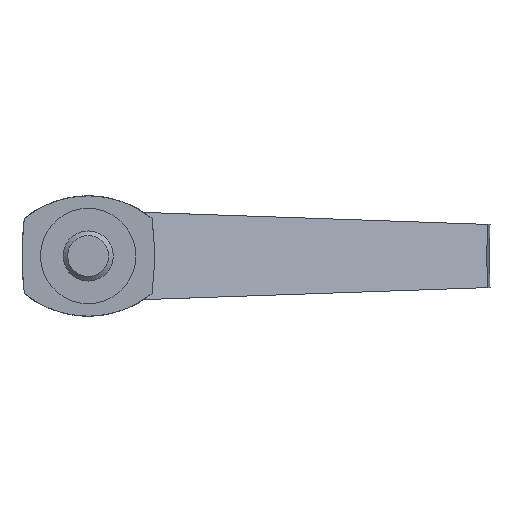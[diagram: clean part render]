
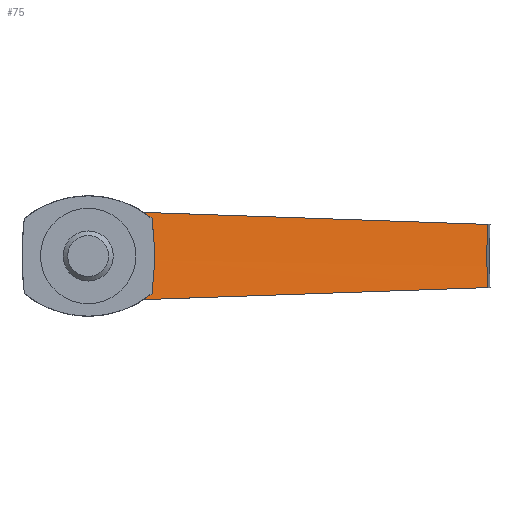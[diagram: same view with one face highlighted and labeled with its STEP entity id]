
A CAD part, front view. The second image highlights one B-rep face of the part: STEP entity #75.
In plain terms, the highlighted conical face has half-angle 70 degrees and reference radius 259 mm.
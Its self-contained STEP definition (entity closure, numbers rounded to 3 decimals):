
#75 = ADVANCED_FACE( '', ( #100 ), #101, .F. );
#100 = FACE_OUTER_BOUND( '', #156, .T. );
#101 = CONICAL_SURFACE( '', #157, 259., 1.222 );
#156 = EDGE_LOOP( '', ( #212, #213, #214, #215, #216, #217 ) );
#157 = AXIS2_PLACEMENT_3D( '', #218, #219, #220 );
#212 = ORIENTED_EDGE( '', *, *, #384, .F. );
#213 = ORIENTED_EDGE( '', *, *, #385, .T. );
#214 = ORIENTED_EDGE( '', *, *, #386, .T. );
#215 = ORIENTED_EDGE( '', *, *, #387, .F. );
#216 = ORIENTED_EDGE( '', *, *, #388, .F. );
#217 = ORIENTED_EDGE( '', *, *, #389, .F. );
#218 = CARTESIAN_POINT( '', ( 260., 17.268, 0. ) );
#219 = DIRECTION( '', ( 0., -1., 0. ) );
#220 = DIRECTION( '', ( 0., 0., -1. ) );
#384 = EDGE_CURVE( '', #434, #435, #436, .T. );
#385 = EDGE_CURVE( '', #434, #437, #438, .T. );
#386 = EDGE_CURVE( '', #437, #439, #440, .T. );
#387 = EDGE_CURVE( '', #441, #439, #442, .T. );
#388 = EDGE_CURVE( '', #443, #441, #444, .T. );
#389 = EDGE_CURVE( '', #435, #443, #445, .T. );
#434 = VERTEX_POINT( '', #520 );
#435 = VERTEX_POINT( '', #521 );
#436 = B_SPLINE_CURVE_WITH_KNOTS( '', 3, ( #522, #523, #524, #525 ), .UNSPECIFIED., .F., .F., ( 4, 4 ), ( 0.001, 0.003 ), .UNSPECIFIED. );
#437 = VERTEX_POINT( '', #526 );
#438 = LINE( '', #527, #528 );
#439 = VERTEX_POINT( '', #529 );
#440 = CIRCLE( '', #530, 180.503 );
#441 = VERTEX_POINT( '', #531 );
#442 = LINE( '', #532, #533 );
#443 = VERTEX_POINT( '', #534 );
#444 = B_SPLINE_CURVE_WITH_KNOTS( '', 3, ( #535, #536, #537, #538 ), .UNSPECIFIED., .F., .F., ( 4, 4 ), ( 0., 0.002 ), .UNSPECIFIED. );
#445 = B_SPLINE_CURVE_WITH_KNOTS( '', 3, ( #539, #540, #541, #542, #543 ), .UNSPECIFIED., .F., .F., ( 4, 1, 4 ), ( 0., 0.008, 0.015 ), .UNSPECIFIED. );
#520 = CARTESIAN_POINT( '', ( 11.094, 20.887, -8.692 ) );
#521 = CARTESIAN_POINT( '', ( 12.73, 21.496, -7.5 ) );
#522 = CARTESIAN_POINT( '', ( 11.094, 20.887, -8.692 ) );
#523 = CARTESIAN_POINT( '', ( 11.657, 21.097, -8.323 ) );
#524 = CARTESIAN_POINT( '', ( 12.202, 21.3, -7.926 ) );
#525 = CARTESIAN_POINT( '', ( 12.73, 21.496, -7.5 ) );
#526 = CARTESIAN_POINT( '', ( 79.607, 45.839, -6.299 ) );
#527 = CARTESIAN_POINT( '', ( 1.158, 17.268, -9.039 ) );
#528 = VECTOR( '', #643, 1000. );
#529 = CARTESIAN_POINT( '', ( 79.607, 45.839, 6.299 ) );
#530 = AXIS2_PLACEMENT_3D( '', #644, #645, #646 );
#531 = CARTESIAN_POINT( '', ( 11.094, 20.887, 8.692 ) );
#532 = CARTESIAN_POINT( '', ( 1.158, 17.268, 9.039 ) );
#533 = VECTOR( '', #647, 1000. );
#534 = CARTESIAN_POINT( '', ( 12.73, 21.496, 7.5 ) );
#535 = CARTESIAN_POINT( '', ( 12.73, 21.496, 7.5 ) );
#536 = CARTESIAN_POINT( '', ( 12.202, 21.3, 7.926 ) );
#537 = CARTESIAN_POINT( '', ( 11.657, 21.097, 8.323 ) );
#538 = CARTESIAN_POINT( '', ( 11.094, 20.887, 8.692 ) );
#539 = CARTESIAN_POINT( '', ( 12.73, 21.496, -7.5 ) );
#540 = CARTESIAN_POINT( '', ( 13.04, 21.637, -5. ) );
#541 = CARTESIAN_POINT( '', ( 13.347, 21.776, 0. ) );
#542 = CARTESIAN_POINT( '', ( 13.04, 21.637, 5. ) );
#543 = CARTESIAN_POINT( '', ( 12.73, 21.496, 7.5 ) );
#643 = DIRECTION( '', ( 0.939, 0.342, 0.033 ) );
#644 = CARTESIAN_POINT( '', ( 260., 45.839, 0. ) );
#645 = DIRECTION( '', ( 0., 1., 0. ) );
#646 = DIRECTION( '', ( 0., 0., 1. ) );
#647 = DIRECTION( '', ( 0.939, 0.342, -0.033 ) );
